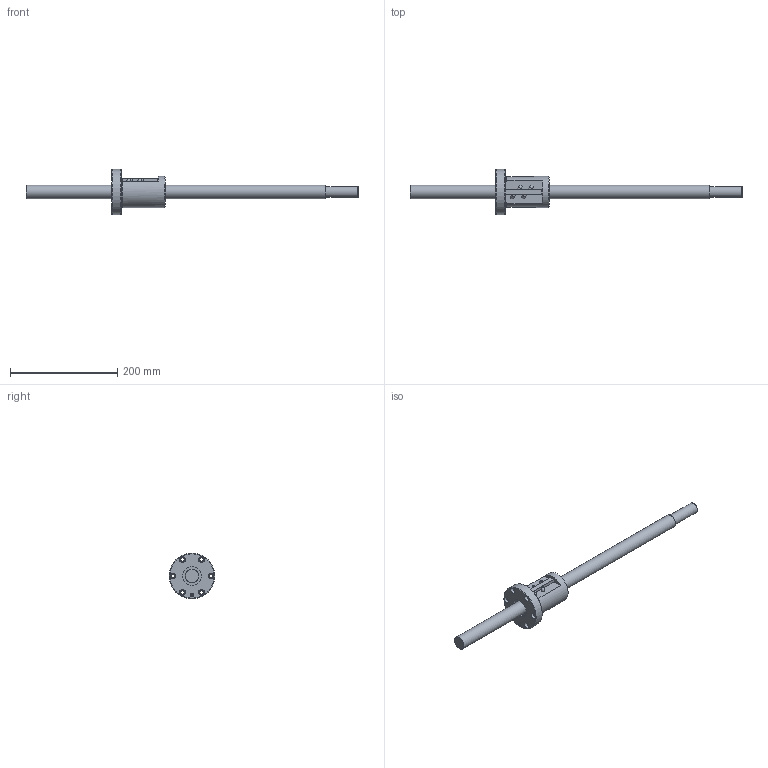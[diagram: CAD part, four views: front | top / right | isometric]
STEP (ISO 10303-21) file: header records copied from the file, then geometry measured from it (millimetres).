
FILE_DESCRIPTION(/* description */ ('STEP AP203'),/* implementation_level */ '2;1');
FILE_NAME(/* name */ 'BIF2510A-5RRG0+620LC5A(00)',/* time_stamp */ '2024-07-15T07:28:09+02:00',/* author */ ('License CC BY-ND 4.0'),/* organization */ ('CADENAS'),/* preprocessor_version */ 'ST-DEVELOPER v19.3',/* originating_system */ 'PARTsolutions',/* authorisation */ ' ');
FILE_SCHEMA (('CONFIG_CONTROL_DESIGN'));
Length unit declared in the file: millimetre
Products named in the file (3): BIF2510A-5RRG0+620LC5A(00); BIF2510A-5RRG0+620LC5, C7A(0)_shaft; BIF 2510A-5RR_nut
Assembly tree (2 placements, depth 2):
  BIF2510A-5RRG0+620LC5A(00)
    BIF2510A-5RRG0+620LC5, C7A(0)_shaft
    BIF 2510A-5RR_nut
Bounding box: 620 x 85 x 85 mm (x, y, z)
Volume: 536073.7 mm3; surface area: 91226.4 mm2
Topology: 2 solids, 2 shells, 76 faces, 167 edges, 105 vertices
Faces by surface type: cylinder 36, plane 28, cone 8, torus 4
Full cylindrical faces by diameter (mm): 4.25 x2, 4.917 x1, 5.4 x4, 6.6 x6, 11 x6, 20.3 x1, 25 x2, 34.8 x2, 58 x1, 85 x1
Entity records: 2015 total; most frequent: CARTESIAN_POINT 373, DIRECTION 352, ORIENTED_EDGE 242, AXIS2_PLACEMENT_3D 160, EDGE_LOOP 146, FACE_BOUND 146, EDGE_CURVE 121, VERTEX_POINT 95
